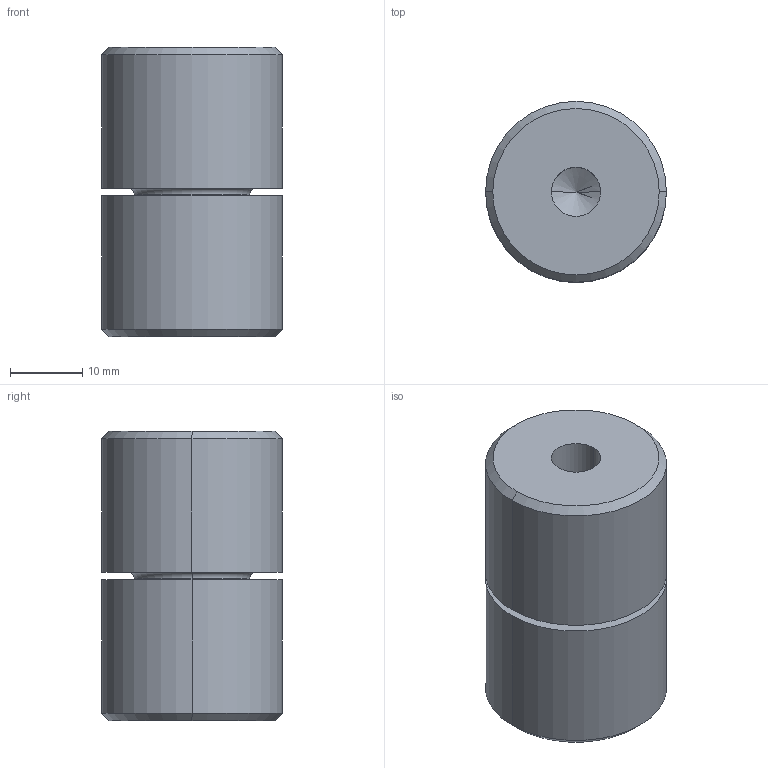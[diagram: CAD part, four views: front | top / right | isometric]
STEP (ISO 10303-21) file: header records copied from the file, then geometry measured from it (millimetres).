
FILE_DESCRIPTION (( 'STEP AP214' ), '1' );
FILE_NAME ('TPNF25-11.STEP', '2024-05-03T17:13:21', ( '' ), ( '' ), 'SwSTEP 2.0', 'SolidWorks 2017', '' );
FILE_SCHEMA (( 'AUTOMOTIVE_DESIGN' ));
Length unit declared in the file: millimetre
Products named in the file (3): TPNFB25-11_TPNFB25-11; TPNFP25-11_TPNFP25-11; TPNF25-11
Assembly tree (2 placements, depth 2):
  TPNF25-11
    TPNFP25-11_TPNFP25-11
    TPNFB25-11_TPNFB25-11
Bounding box: 25 x 25 x 40 mm (x, y, z)
Volume: 17830.2 mm3; surface area: 6628.3 mm2
Topology: 2 solids, 2 shells, 34 faces, 68 edges, 39 vertices
Faces by surface type: cylinder 12, cone 8, torus 8, plane 6
Entity records: 1034 total; most frequent: DIRECTION 190, CARTESIAN_POINT 144, ORIENTED_EDGE 132, AXIS2_PLACEMENT_3D 85, EDGE_CURVE 66, CIRCLE 46, VERTEX_POINT 39, EDGE_LOOP 39
